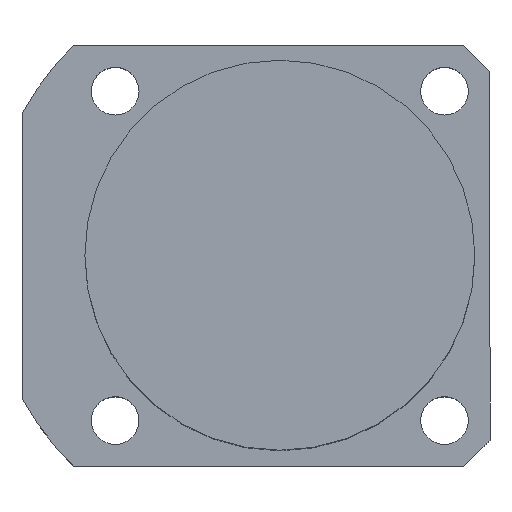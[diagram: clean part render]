
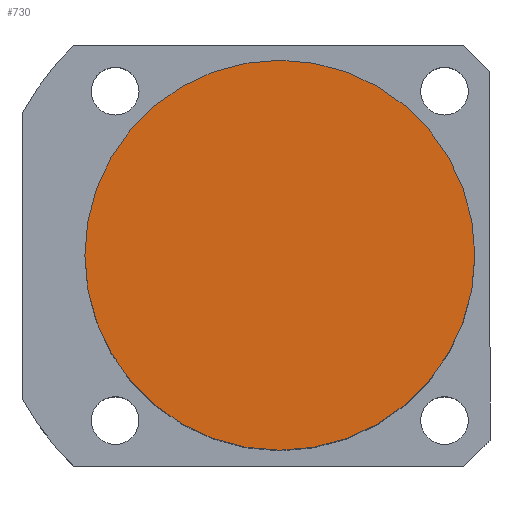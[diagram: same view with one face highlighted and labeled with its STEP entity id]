
A CAD part, top view. The second image highlights one B-rep face of the part: STEP entity #730.
In plain terms, the highlighted planar face has unit normal (0, 0, 1).
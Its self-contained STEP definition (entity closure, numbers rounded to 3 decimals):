
#190 = DIRECTION ( 'NONE',  ( 0., 0., 1. ) ) ;
#307 = EDGE_LOOP ( 'NONE', ( #1172, #975 ) ) ;
#515 = EDGE_CURVE ( 'NONE', #1318, #1631, #549, .T. ) ;
#549 = CIRCLE ( 'NONE', #1478, 45. ) ;
#610 = EDGE_CURVE ( 'NONE', #1631, #1318, #834, .T. ) ;
#730 = ADVANCED_FACE ( 'NONE', ( #1696 ), #2090, .T. ) ;
#796 = CARTESIAN_POINT ( 'NONE',  ( -45., 0., 99.5 ) ) ;
#834 = CIRCLE ( 'NONE', #1581, 45. ) ;
#875 = DIRECTION ( 'NONE',  ( 0., 0., 1. ) ) ;
#881 = CARTESIAN_POINT ( 'NONE',  ( 0., 0., 99.5 ) ) ;
#975 = ORIENTED_EDGE ( 'NONE', *, *, #610, .T. ) ;
#1172 = ORIENTED_EDGE ( 'NONE', *, *, #515, .T. ) ;
#1307 = DIRECTION ( 'NONE',  ( 0., 0., 1. ) ) ;
#1318 = VERTEX_POINT ( 'NONE', #796 ) ;
#1478 = AXIS2_PLACEMENT_3D ( 'NONE', #2015, #1307, #1505 ) ;
#1505 = DIRECTION ( 'NONE',  ( 1., 0., 0. ) ) ;
#1545 = DIRECTION ( 'NONE',  ( 1., 0., 0. ) ) ;
#1551 = CARTESIAN_POINT ( 'NONE',  ( 0., 0., 99.5 ) ) ;
#1581 = AXIS2_PLACEMENT_3D ( 'NONE', #1551, #190, #1545 ) ;
#1583 = DIRECTION ( 'NONE',  ( 1., 0., 0. ) ) ;
#1631 = VERTEX_POINT ( 'NONE', #2171 ) ;
#1696 = FACE_OUTER_BOUND ( 'NONE', #307, .T. ) ;
#2015 = CARTESIAN_POINT ( 'NONE',  ( 0., 0., 99.5 ) ) ;
#2067 = AXIS2_PLACEMENT_3D ( 'NONE', #881, #875, #1583 ) ;
#2090 = PLANE ( 'NONE',  #2067 ) ;
#2171 = CARTESIAN_POINT ( 'NONE',  ( 45., 0., 99.5 ) ) ;
